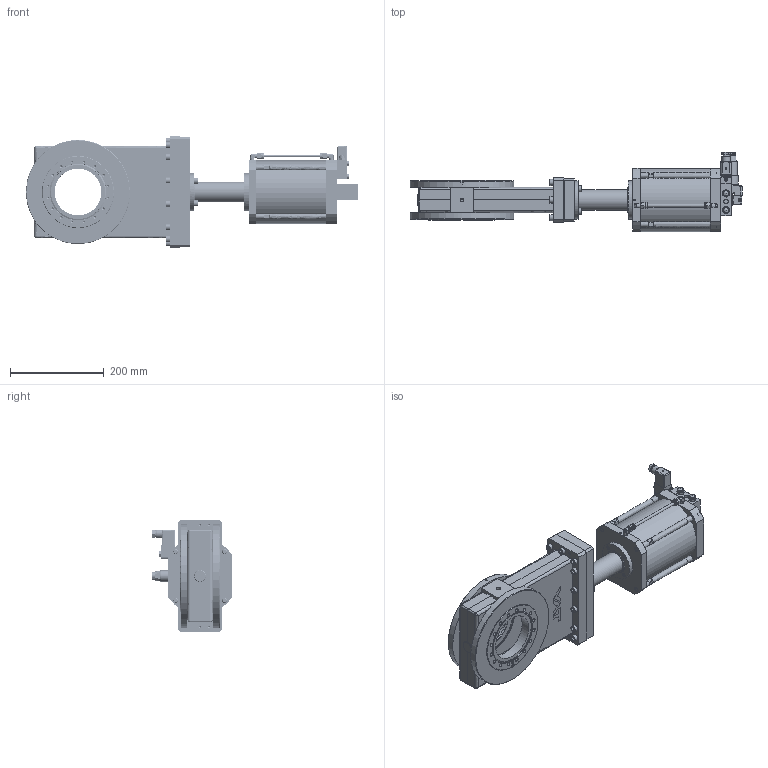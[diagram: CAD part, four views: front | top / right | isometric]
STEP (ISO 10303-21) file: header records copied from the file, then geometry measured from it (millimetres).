
FILE_DESCRIPTION((''),'2;1');
FILE_NAME('C:\temp\ideas\346724.stp','2007-08-16T14:09:50',('User'),( 'SDRC'),'I-DEAS Master Series 9','UNIX','Yes');
FILE_SCHEMA(('CONFIG_CONTROL_DESIGN'));
Length unit declared in the file: millimetre
Assembly tree (67 placements, depth 0):
Bounding box: 708.59 x 169.5 x 237 mm (x, y, z)
Volume: 3482271.2 mm3; surface area: 1028256.8 mm2
Topology: 126 solids, 126 shells, 2116 faces, 4658 edges, 3067 vertices
Faces by surface type: bspline 2116
Entity records: 50795 total; most frequent: CARTESIAN_POINT 27218, ORIENTED_EDGE 5850, EDGE_CURVE 2925, VERTEX_POINT 1904, EDGE_LOOP 1723, FACE_OUTER_BOUND 1336, ADVANCED_FACE 1336, QUASI_UNIFORM_CURVE 1003
